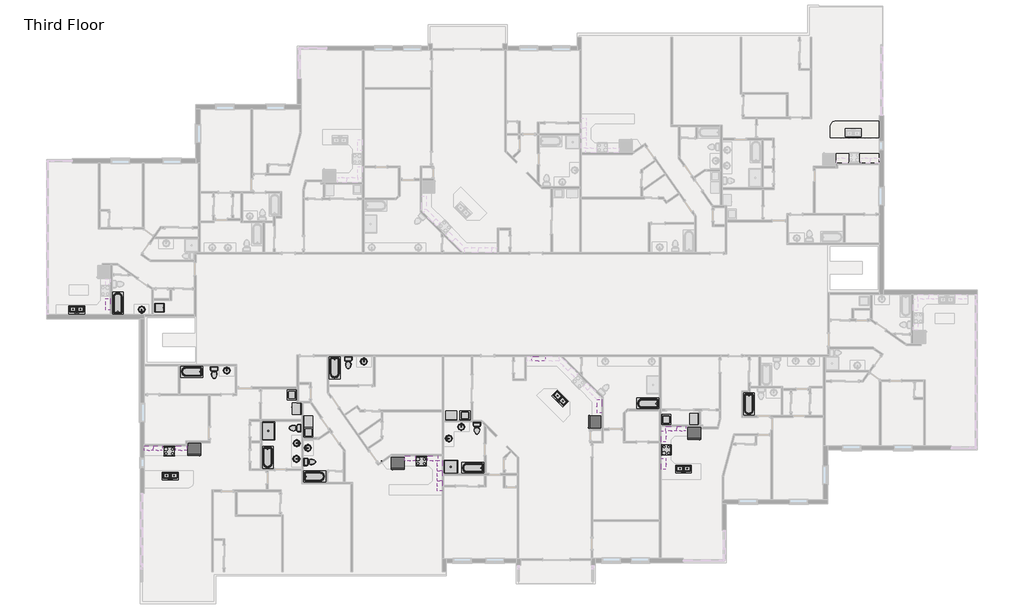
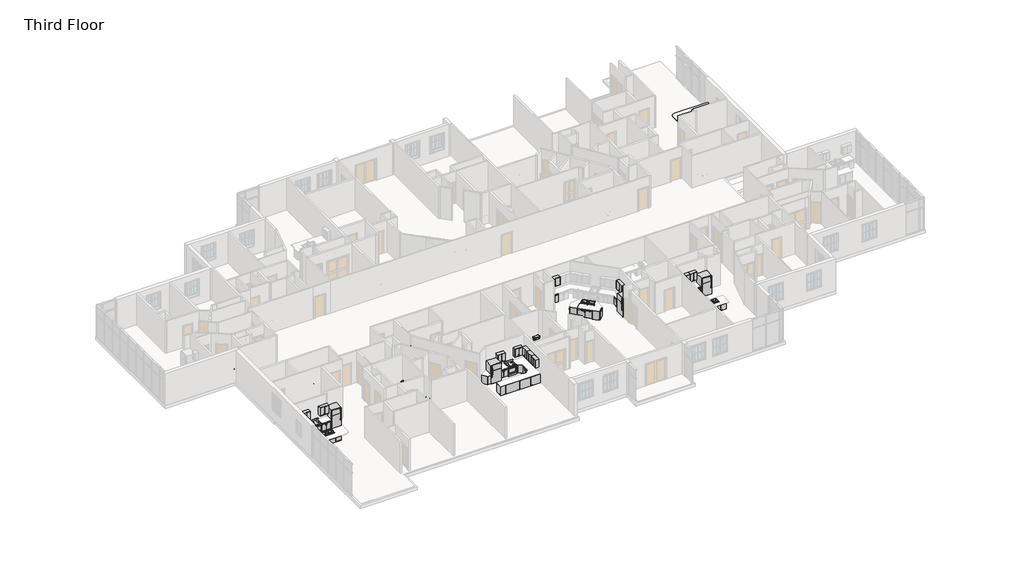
# One storey, part 14 of 17: 63 furniture elements, 27 flow terminals, 16 proxies, 2 slabs.
"""IFC4 building model written with IfcOpenShell, lengths in millimetres."""

from ifc_helpers import new_model, si_unit, point, frame, frame_2d, origin, place, context, project, spatial, polyline, circle_curve, trimmed, segment, composite_curve, outline, extrude, transform, mapped, element, save
from components import proxy_6b4a07a9, proxy_fbb4c072, proxy_93150df1, proxy_9109806d, proxy_718fa39f, proxy_f3e01b1d, flow_terminal_54cced83, flow_terminal_5dba0d75, flow_terminal_a53be723, flow_terminal_d49f872f, toilet_domestic_3d_toilet_domestic_3d_f7549cf7, toilet_domestic_3d_toilet_domestic_3d_183bbd19, tub_rectangular_3d_tub_rectangular_3d_72a4d900, tub_rectangular_3d_tub_rectangular_3d_cbc2c449, furniture_0fc2bd2a, furniture_337523c0, furniture_6e8794dd, furniture_07bc9410, furniture_6ace90bf, furniture_b282fead, furniture_6a014568, furniture_338da5bd, furniture_b74d3f52, furniture_7de88fd5, furniture_695a55eb, furniture_b6fbc004, furniture_b4094f2d, furniture_07c0da44, furniture_bfd559e3, base_cabinet_filler_base_cabinet_filler_dff9ed13, base_cabinet_filler_base_cabinet_filler_01d9e414, base_cabinet_filler_base_cabinet_filler_890d7b95, base_cabinet_filler_base_cabinet_filler_ec835e29, base_cabinet_filler_base_cabinet_filler_83579e99, base_cabinet_filler_base_cabinet_filler_783ad0b1, base_cabinet_filler_base_cabinet_filler_ca2a3ea1, furniture_de2c603d, furniture_a8c34398, furniture_09d05a5b, furniture_b1f16c95, furniture_c6a3367d, furniture_9117db5d, furniture_b34976c1

model = new_model("IFC4")

# Units and contexts
model_context = context("Model", 3, world=origin())
ifc_project = project(units=[si_unit("LENGTHUNIT", "METRE", prefix="MILLI")], contexts=[model_context])

# Site, building, storey
site = spatial("IfcSite", under=ifc_project)
building = spatial("IfcBuilding", under=site)
storey = spatial("IfcBuildingStorey", under=building, Name="Third Floor", Elevation=6096.0)

# Proxies
placement = place(None, origin())
proxy_shape = proxy_6b4a07a9(model_context)
element("IfcBuildingElementProxy", 1, Name="Dryer : 30\" x 25\" x 35\"", ObjectType="Dryer : 30\" x 25\" x 35\"", at=placement, inside=storey, context=model_context, shape_type="MappedRepresentation", body=[
    mapped(proxy_shape, transform((44173.5487851, -8537.825475, 6096.0), x_axis=(0.0, -1.0, 0.0), y_axis=(1.0, 0.0, 0.0), z_axis=(0.0, 0.0, 1.0))),
])
element("IfcBuildingElementProxy", 2, Name="Dryer : 30\" x 25\" x 35\"", ObjectType="Dryer : 30\" x 25\" x 35\"", at=placement, inside=storey, context=model_context, shape_type="MappedRepresentation", body=[
    mapped(proxy_shape, transform((28406.7740425, -8419.0812648, 6096.0), x_axis=(-1.0, 0.0, 0.0), y_axis=(0.0, -1.0, 0.0), z_axis=(0.0, 0.0, 1.0))),
])
element("IfcBuildingElementProxy", 3, Name="Dryer : 30\" x 25\" x 35\"", ObjectType="Dryer : 30\" x 25\" x 35\"", at=placement, inside=storey, context=model_context, shape_type="MappedRepresentation", body=[
    mapped(proxy_shape, transform((18584.1801376, -9524.4003876, 6096.0), x_axis=(0.0, 1.0, 0.0), y_axis=(-1.0, 0.0, 0.0), z_axis=(0.0, 0.0, 1.0))),
])
element("IfcBuildingElementProxy", 4, Name="Dryer : 30\" x 25\" x 35\"", ObjectType="Dryer : 30\" x 25\" x 35\"", at=placement, inside=storey, context=model_context, shape_type="MappedRepresentation", body=[
    mapped(proxy_shape, transform((17205.55813, -7837.3845163, 6096.0), x_axis=(0.0, -1.0, 0.0), y_axis=(1.0, 0.0, 0.0), z_axis=(0.0, 0.0, 1.0))),
])
proxy_2_shape = proxy_fbb4c072(model_context)
element("IfcBuildingElementProxy", 5, Name="Range : 30\" x 26\"", ObjectType="Range : 30\" x 26\"", at=placement, inside=storey, context=model_context, shape_type="MappedRepresentation", body=[
    mapped(proxy_2_shape, transform((8484.0058728, -11454.5493344, 6096.0), x_axis=(1.0, 0.0, 0.0), y_axis=(0.0, 1.0, 0.0), z_axis=(0.0, 0.0, 1.0))),
])
element("IfcBuildingElementProxy", 6, Name="Range : 30\" x 26\"", ObjectType="Range : 30\" x 26\"", at=placement, inside=storey, context=model_context, shape_type="MappedRepresentation", body=[
    mapped(proxy_2_shape, transform((25568.0760465, -12129.3236347, 6096.0), x_axis=(1.0, 0.0, 0.0), y_axis=(0.0, 1.0, 0.0), z_axis=(0.0, 0.0, 1.0))),
])
element("IfcBuildingElementProxy", 7, Name="Range : 30\" x 26\"", ObjectType="Range : 30\" x 26\"", at=placement, inside=storey, context=model_context, shape_type="MappedRepresentation", body=[
    mapped(proxy_2_shape, transform((42884.6470292, -11433.5876998, 6096.0), x_axis=(0.0, 1.0, 0.0), y_axis=(-1.0, 0.0, 0.0), z_axis=(0.0, 0.0, 1.0))),
])
proxy_3_shape = proxy_93150df1(model_context)
element("IfcBuildingElementProxy", 8, Name="Refrigerator : 35\" x 32\" LH", ObjectType="Refrigerator : 35\" x 32\" LH", at=placement, inside=storey, context=model_context, shape_type="MappedRepresentation", body=[
    mapped(proxy_3_shape, transform((24373.0696169, -11939.5714882, 6096.0), x_axis=(1.0, 0.0, 0.0), y_axis=(0.0, 1.0, 0.0), z_axis=(0.0, 0.0, 1.0))),
])
proxy_4_shape = proxy_9109806d(model_context)
element("IfcBuildingElementProxy", 9, Name="Refrigerator : 35\" x 32\" RH", ObjectType="Refrigerator : 35\" x 32\" RH", at=placement, inside=storey, context=model_context, shape_type="MappedRepresentation", body=[
    mapped(proxy_4_shape, transform((10565.2183728, -10998.1775997, 6096.0), x_axis=(1.0, 0.0, 0.0), y_axis=(0.0, 1.0, 0.0), z_axis=(0.0, 0.0, 1.0))),
])
element("IfcBuildingElementProxy", 10, Name="Refrigerator : 35\" x 32\" RH", ObjectType="Refrigerator : 35\" x 32\" RH", at=placement, inside=storey, context=model_context, shape_type="MappedRepresentation", body=[
    mapped(proxy_4_shape, transform((37739.4505062, -9160.9400492, 6096.0), x_axis=(-0.0020172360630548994, -0.9999979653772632, 0.0), y_axis=(0.9999979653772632, -0.0020172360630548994, 0.0), z_axis=(0.0, 0.0, 1.0))),
])
element("IfcBuildingElementProxy", 11, Name="Refrigerator : 35\" x 32\" RH", ObjectType="Refrigerator : 35\" x 32\" RH", at=placement, inside=storey, context=model_context, shape_type="MappedRepresentation", body=[
    mapped(proxy_4_shape, transform((44469.7001082, -9909.0410777, 6096.0), x_axis=(1.0, 0.0, 0.0), y_axis=(0.0, 1.0, 0.0), z_axis=(0.0, 0.0, 1.0))),
])
proxy_5_shape = proxy_718fa39f(model_context)
element("IfcBuildingElementProxy", 12, Name="Washer : 27\" x 25\" x 35\"", ObjectType="Washer : 27\" x 25\" x 35\"", at=placement, inside=storey, context=model_context, shape_type="MappedRepresentation", body=[
    mapped(proxy_5_shape, transform((42820.896594, -9415.6051683, 6096.0), x_axis=(0.0, 1.0, 0.0), y_axis=(-1.0, 0.0, 0.0), z_axis=(0.0, 0.0, 1.0))),
])
element("IfcBuildingElementProxy", 13, Name="Washer : 27\" x 25\" x 35\"", ObjectType="Washer : 27\" x 25\" x 35\"", at=placement, inside=storey, context=model_context, shape_type="MappedRepresentation", body=[
    mapped(proxy_5_shape, transform((29345.0797218, -8454.5927038, 6096.0), x_axis=(-1.0, 0.0, 0.0), y_axis=(0.0, -1.0, 0.0), z_axis=(0.0, 0.0, 1.0))),
])
element("IfcBuildingElementProxy", 14, Name="Washer : 27\" x 25\" x 35\"", ObjectType="Washer : 27\" x 25\" x 35\"", at=placement, inside=storey, context=model_context, shape_type="MappedRepresentation", body=[
    mapped(proxy_5_shape, transform((16924.7421343, -6896.1954628, 6096.0), x_axis=(0.0, -1.0, 0.0), y_axis=(1.0, 0.0, 0.0), z_axis=(0.0, 0.0, 1.0))),
])
element("IfcBuildingElementProxy", 15, Name="Washer : 27\" x 25\" x 35\"", ObjectType="Washer : 27\" x 25\" x 35\"", at=placement, inside=storey, context=model_context, shape_type="MappedRepresentation", body=[
    mapped(proxy_5_shape, transform((18548.6686985, -10291.5635078, 6096.0), x_axis=(0.0, 1.0, 0.0), y_axis=(-1.0, 0.0, 0.0), z_axis=(0.0, 0.0, 1.0))),
])
proxy_6_shape = proxy_f3e01b1d(model_context)
element("IfcBuildingElementProxy", 16, Name="Washer_Dryer_Combo : 24\"", ObjectType="Washer_Dryer_Combo : 24\"", at=placement, inside=storey, context=model_context, shape_type="MappedRepresentation", body=[
    mapped(proxy_6_shape, transform((7781.763642, -1399.896226, 6096.0), x_axis=(0.0, 1.0, 0.0), y_axis=(-1.0, 0.0, 0.0), z_axis=(0.0, 0.0, 1.0))),
])

# Flow terminals
flow_terminal_shape = flow_terminal_54cced83(model_context)
element("IfcFlowTerminal", 17, ObjectType="Shower Base-3D : 36\" x 36\"", at=placement, inside=storey, context=model_context, shape_type="MappedRepresentation", body=[
    mapped(flow_terminal_shape, transform((27964.2865862, -12199.1736347, 6096.0), x_axis=(-1.0, 0.0, 0.0), y_axis=(0.0, -1.0, 0.0), z_axis=(0.0, 0.0, 1.0))),
])
flow_terminal_2_shape = flow_terminal_5dba0d75(model_context)
element("IfcFlowTerminal", 18, ObjectType="Shower Base-3D : 48\" x 34\"", at=placement, inside=storey, context=model_context, shape_type="MappedRepresentation", body=[
    mapped(flow_terminal_2_shape, transform((15583.4691338, -9765.9826248, 6096.0), x_axis=(0.0, -1.0, 0.0), y_axis=(1.0, 0.0, 0.0), z_axis=(0.0, 0.0, 1.0))),
])
flow_terminal_3_shape = flow_terminal_a53be723(model_context)
element("IfcFlowTerminal", 19, ObjectType="Sink Kitchen-Double : 42\" x 21\"", at=placement, inside=storey, context=model_context, shape_type="MappedRepresentation", body=[
    mapped(flow_terminal_3_shape, transform((2610.3896329, -1539.4234679, 6096.0), x_axis=(-1.0, 0.0, 0.0), y_axis=(0.0, -1.0, 0.0), z_axis=(0.0, 0.0, 1.0))),
])
element("IfcFlowTerminal", 20, ObjectType="Sink Kitchen-Double : 42\" x 21\"", at=placement, inside=storey, context=model_context, shape_type="MappedRepresentation", body=[
    mapped(flow_terminal_3_shape, transform((8952.0802897, -12819.6612346, 6096.0), x_axis=(-1.0, 0.0, 0.0), y_axis=(0.0, -1.0, 0.0), z_axis=(0.0, 0.0, 1.0))),
])
element("IfcFlowTerminal", 21, ObjectType="Sink Kitchen-Double : 42\" x 21\"", at=placement, inside=storey, context=model_context, shape_type="MappedRepresentation", body=[
    mapped(flow_terminal_3_shape, transform((35369.4238071, -7586.7342025, 6096.0), x_axis=(-0.7071067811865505, 0.7071067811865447, 0.0), y_axis=(-0.7071067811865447, -0.7071067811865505, 0.0), z_axis=(0.0, 0.0, 1.0))),
])
element("IfcFlowTerminal", 22, ObjectType="Sink Kitchen-Double : 42\" x 21\"", at=placement, inside=storey, context=model_context, shape_type="MappedRepresentation", body=[
    mapped(flow_terminal_3_shape, transform((43757.5862697, -12345.6422987, 6096.0), x_axis=(-1.0, 0.0, 0.0), y_axis=(0.0, -1.0, 0.0), z_axis=(0.0, 0.0, 1.0))),
])
flow_terminal_4_shape = flow_terminal_d49f872f(model_context)
element("IfcFlowTerminal", 23, ObjectType="Sink Vanity-Round : 19\" x 19\"", at=placement, inside=storey, context=model_context, shape_type="MappedRepresentation", body=[
    mapped(flow_terminal_4_shape, transform((7095.9779114, -1446.5547276, 6096.0), x_axis=(-1.0, 0.0, 0.0), y_axis=(0.0, -1.0, 0.0), z_axis=(0.0, 0.0, 1.0))),
])
element("IfcFlowTerminal", 24, ObjectType="Sink Vanity-Round : 19\" x 19\"", at=placement, inside=storey, context=model_context, shape_type="MappedRepresentation", body=[
    mapped(flow_terminal_4_shape, transform((12671.2282401, -5751.7512482, 6096.0), x_axis=(1.0, 0.0, 0.0), y_axis=(0.0, 1.0, 0.0), z_axis=(0.0, 0.0, 1.0))),
])
element("IfcFlowTerminal", 25, ObjectType="Sink Vanity-Round : 19\" x 19\"", at=placement, inside=storey, context=model_context, shape_type="MappedRepresentation", body=[
    mapped(flow_terminal_4_shape, transform((17420.7936513, -10494.2975939, 6096.0), x_axis=(0.0, -1.0, 0.0), y_axis=(1.0, 0.0, 0.0), z_axis=(0.0, 0.0, 1.0))),
])
element("IfcFlowTerminal", 26, ObjectType="Sink Vanity-Round : 19\" x 19\"", at=placement, inside=storey, context=model_context, shape_type="MappedRepresentation", body=[
    mapped(flow_terminal_4_shape, transform((17409.016646, -11561.0975939, 6096.0), x_axis=(0.0, -1.0, 0.0), y_axis=(1.0, 0.0, 0.0), z_axis=(0.0, 0.0, 1.0))),
])
element("IfcFlowTerminal", 27, ObjectType="Sink Vanity-Round : 19\" x 19\"", at=placement, inside=storey, context=model_context, shape_type="MappedRepresentation", body=[
    mapped(flow_terminal_4_shape, transform((21972.1515274, -5140.3059377, 6096.0), x_axis=(1.0, 0.0, 0.0), y_axis=(0.0, 1.0, 0.0), z_axis=(0.0, 0.0, 1.0))),
])
element("IfcFlowTerminal", 28, ObjectType="Sink Vanity-Round : 19\" x 19\"", at=placement, inside=storey, context=model_context, shape_type="MappedRepresentation", body=[
    mapped(flow_terminal_4_shape, transform((27911.2708925, -10375.2194838, 6096.0), x_axis=(0.001247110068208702, 0.9999992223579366, 0.0), y_axis=(-0.9999992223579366, 0.001247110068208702, 0.0), z_axis=(0.0, 0.0, 1.0))),
])
element("IfcFlowTerminal", 29, ObjectType="Sink Vanity-Round : 19\" x 19\"", at=placement, inside=storey, context=model_context, shape_type="MappedRepresentation", body=[
    mapped(flow_terminal_4_shape, transform((28570.2652609, -9561.5358358, 6096.0), x_axis=(0.9999968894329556, -0.0024942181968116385, 0.0), y_axis=(0.0024942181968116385, 0.9999968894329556, 0.0), z_axis=(0.0, 0.0, 1.0))),
])
element("IfcFlowTerminal", 30, ObjectType="Sink Vanity-Round : 19\" x 19\"", at=placement, inside=storey, context=model_context, shape_type="MappedRepresentation", body=[
    mapped(flow_terminal_4_shape, transform((18352.0332752, -11016.4921873, 6096.0), x_axis=(0.0, 1.0, 0.0), y_axis=(-1.0, 0.0, 0.0), z_axis=(0.0, 0.0, 1.0))),
])
toilet_domestic_3d_toilet_domestic_3d_shape = toilet_domestic_3d_toilet_domestic_3d_f7549cf7(model_context)
toilet_domestic_3d_toilet_domestic_3d_2_shape = toilet_domestic_3d_toilet_domestic_3d_183bbd19(model_context)
element("IfcFlowTerminal", 31, ObjectType="Toilet-Domestic-3D : Toilet-Domestic-3D", at=placement, inside=storey, context=model_context, shape_type="MappedRepresentation", body=[
    mapped(toilet_domestic_3d_toilet_domestic_3d_shape, transform((11916.3561509, -5905.1826248, 6096.0), x_axis=(1.0, 0.0, 0.0), y_axis=(0.0, 1.0, 0.0), z_axis=(0.0, 0.0, 1.0))),
    mapped(toilet_domestic_3d_toilet_domestic_3d_2_shape, transform((11916.3561509, -5905.1826248, 6096.0), x_axis=(1.0, 0.0, 0.0), y_axis=(0.0, 1.0, 0.0), z_axis=(0.0, 0.0, 1.0))),
])
element("IfcFlowTerminal", 32, ObjectType="Toilet-Domestic-3D : Toilet-Domestic-3D", at=placement, inside=storey, context=model_context, shape_type="MappedRepresentation", body=[
    mapped(toilet_domestic_3d_toilet_domestic_3d_shape, transform((17301.7543863, -9562.7826248, 6096.0), x_axis=(0.0, -1.0, 0.0), y_axis=(1.0, 0.0, 0.0), z_axis=(0.0, 0.0, 1.0))),
    mapped(toilet_domestic_3d_toilet_domestic_3d_2_shape, transform((17301.7543863, -9562.7826248, 6096.0), x_axis=(0.0, -1.0, 0.0), y_axis=(1.0, 0.0, 0.0), z_axis=(0.0, 0.0, 1.0))),
])
element("IfcFlowTerminal", 33, ObjectType="Toilet-Domestic-3D : Toilet-Domestic-3D", at=placement, inside=storey, context=model_context, shape_type="MappedRepresentation", body=[
    mapped(toilet_domestic_3d_toilet_domestic_3d_shape, transform((18495.5543863, -11861.2719726, 6096.0), x_axis=(0.0, 1.0, 0.0), y_axis=(-1.0, 0.0, 0.0), z_axis=(0.0, 0.0, 1.0))),
    mapped(toilet_domestic_3d_toilet_domestic_3d_2_shape, transform((18495.5543863, -11861.2719726, 6096.0), x_axis=(0.0, 1.0, 0.0), y_axis=(-1.0, 0.0, 0.0), z_axis=(0.0, 0.0, 1.0))),
])
element("IfcFlowTerminal", 34, ObjectType="Toilet-Domestic-3D : Toilet-Domestic-3D", at=placement, inside=storey, context=model_context, shape_type="MappedRepresentation", body=[
    mapped(toilet_domestic_3d_toilet_domestic_3d_shape, transform((21010.1543863, -5232.0826248, 6096.0), x_axis=(1.0, 0.0, 0.0), y_axis=(0.0, 1.0, 0.0), z_axis=(0.0, 0.0, 1.0))),
    mapped(toilet_domestic_3d_toilet_domestic_3d_2_shape, transform((21010.1543863, -5232.0826248, 6096.0), x_axis=(1.0, 0.0, 0.0), y_axis=(0.0, 1.0, 0.0), z_axis=(0.0, 0.0, 1.0))),
])
element("IfcFlowTerminal", 35, ObjectType="Toilet-Domestic-3D : Toilet-Domestic-3D", at=placement, inside=storey, context=model_context, shape_type="MappedRepresentation", body=[
    mapped(toilet_domestic_3d_toilet_domestic_3d_shape, transform((29733.3816535, -9682.6542097, 6096.0), x_axis=(1.0, 0.0, 0.0), y_axis=(0.0, 1.0, 0.0), z_axis=(0.0, 0.0, 1.0))),
    mapped(toilet_domestic_3d_toilet_domestic_3d_2_shape, transform((29733.3816535, -9682.6542097, 6096.0), x_axis=(1.0, 0.0, 0.0), y_axis=(0.0, 1.0, 0.0), z_axis=(0.0, 0.0, 1.0))),
])
tub_rectangular_3d_tub_rectangular_3d_shape = tub_rectangular_3d_tub_rectangular_3d_72a4d900(model_context)
element("IfcFlowTerminal", 36, ObjectType="Tub-Rectangular-3D : Tub-Rectangular-3D", at=placement, inside=storey, context=model_context, shape_type="MappedRepresentation", body=[
    mapped(tub_rectangular_3d_tub_rectangular_3d_shape, transform((47733.9460269, -8284.6757706, 6096.0), x_axis=(0.0, -1.0, 0.0), y_axis=(1.0, 0.0, 0.0), z_axis=(0.0, 0.0, 1.0))),
])
element("IfcFlowTerminal", 37, ObjectType="Tub-Rectangular-3D : Tub-Rectangular-3D", at=placement, inside=storey, context=model_context, shape_type="MappedRepresentation", body=[
    mapped(tub_rectangular_3d_tub_rectangular_3d_shape, transform((19641.0094272, -5812.794765, 6096.0), x_axis=(0.0, -1.0, 0.0), y_axis=(1.0, 0.0, 0.0), z_axis=(0.0, 0.0, 1.0))),
])
element("IfcFlowTerminal", 38, ObjectType="Tub-Rectangular-3D : Tub-Rectangular-3D", at=placement, inside=storey, context=model_context, shape_type="MappedRepresentation", body=[
    mapped(tub_rectangular_3d_tub_rectangular_3d_shape, transform((19051.8674743, -13293.3204597, 6096.0), x_axis=(1.0, 0.0, 0.0), y_axis=(0.0, 1.0, 0.0), z_axis=(0.0, 0.0, 1.0))),
])
element("IfcFlowTerminal", 39, ObjectType="Tub-Rectangular-3D : Tub-Rectangular-3D", at=placement, inside=storey, context=model_context, shape_type="MappedRepresentation", body=[
    mapped(tub_rectangular_3d_tub_rectangular_3d_shape, transform((15100.67709, -11904.7523031, 6096.0), x_axis=(0.0, -1.0, 0.0), y_axis=(1.0, 0.0, 0.0), z_axis=(0.0, 0.0, 1.0))),
])
element("IfcFlowTerminal", 40, ObjectType="Tub-Rectangular-3D : Tub-Rectangular-3D", at=placement, inside=storey, context=model_context, shape_type="MappedRepresentation", body=[
    mapped(tub_rectangular_3d_tub_rectangular_3d_shape, transform((10041.086734, -5294.5871067, 6096.0), x_axis=(-1.0, 0.0, 0.0), y_axis=(0.0, -1.0, 0.0), z_axis=(0.0, 0.0, 1.0))),
])
tub_rectangular_3d_tub_rectangular_3d_2_shape = tub_rectangular_3d_tub_rectangular_3d_cbc2c449(model_context)
element("IfcFlowTerminal", 41, ObjectType="Tub-Rectangular-3D : Tub-Rectangular-3D", at=placement, inside=storey, context=model_context, shape_type="MappedRepresentation", body=[
    mapped(tub_rectangular_3d_tub_rectangular_3d_2_shape, transform((4937.8503923, -742.3159003, 6096.0), x_axis=(0.0, 1.0, 0.0), y_axis=(-1.0, 0.0, 0.0), z_axis=(0.0, 0.0, 1.0))),
])
element("IfcFlowTerminal", 42, ObjectType="Tub-Rectangular-3D : Tub-Rectangular-3D", at=placement, inside=storey, context=model_context, shape_type="MappedRepresentation", body=[
    mapped(tub_rectangular_3d_tub_rectangular_3d_2_shape, transform((29107.1010669, -12707.1736347, 6096.0), x_axis=(-1.0, 0.0, 0.0), y_axis=(0.0, -1.0, 0.0), z_axis=(0.0, 0.0, 1.0))),
])
element("IfcFlowTerminal", 43, ObjectType="Tub-Rectangular-3D : Tub-Rectangular-3D", at=placement, inside=storey, context=model_context, shape_type="MappedRepresentation", body=[
    mapped(tub_rectangular_3d_tub_rectangular_3d_2_shape, transform((40980.2940605, -8335.220689, 6096.0), x_axis=(-1.0, 0.0, 0.0), y_axis=(0.0, -1.0, 0.0), z_axis=(0.0, 0.0, 1.0))),
])

# Furniture
furniture_shape = furniture_0fc2bd2a(model_context)
element("IfcFurniture", 44, ObjectType="Base Cabinet-Single Door & Drawer : 15\"'", at=placement, inside=storey, context=model_context, shape_type="MappedRepresentation", body=[
    mapped(furniture_shape, transform((7393.028754, -13101.4066357, 6096.0), x_axis=(-1.0, 0.0, 0.0), y_axis=(0.0, -1.0, 0.0), z_axis=(0.0, 0.0, 1.0))),
])
furniture_2_shape = furniture_337523c0(model_context)
element("IfcFurniture", 45, ObjectType="Base Cabinet-Single Door & Drawer : 12\"", at=placement, inside=storey, context=model_context, shape_type="MappedRepresentation", body=[
    mapped(furniture_2_shape, transform((42224.2470292, -10500.4499949, 6096.0), x_axis=(0.0, -1.0, 0.0), y_axis=(1.0, 0.0, 0.0), z_axis=(0.0, 0.0, 1.0))),
])
furniture_3_shape = furniture_6e8794dd(model_context)
element("IfcFurniture", 46, ObjectType="Base Cabinet-Single Door & Drawer : 12\"", at=placement, inside=storey, context=model_context, shape_type="MappedRepresentation", body=[
    mapped(furniture_3_shape, transform((4880.7003923, -765.2085211, 6096.0), x_axis=(0.0, -1.0, 0.0), y_axis=(1.0, 0.0, 0.0), z_axis=(0.0, 0.0, 1.0))),
])
element("IfcFurniture", 47, ObjectType="Base Cabinet-Single Door & Drawer : 12\"", at=placement, inside=storey, context=model_context, shape_type="MappedRepresentation", body=[
    mapped(furniture_3_shape, transform((42224.2470292, -11604.7254047, 6096.0), x_axis=(0.0, 1.0, 0.0), y_axis=(-1.0, 0.0, 0.0), z_axis=(0.0, 0.0, 1.0))),
])
furniture_4_shape = furniture_07bc9410(model_context)
element("IfcFurniture", 48, ObjectType="Base Cabinet-Single Door & Drawer : 18\"", at=placement, inside=storey, context=model_context, shape_type="MappedRepresentation", body=[
    mapped(furniture_4_shape, transform((7423.2435778, -10772.1368662, 6096.0), x_axis=(-1.0, 0.0, 0.0), y_axis=(0.0, -1.0, 0.0), z_axis=(0.0, 0.0, 1.0))),
])
furniture_5_shape = furniture_6ace90bf(model_context)
element("IfcFurniture", 49, ObjectType="Base Cabinet-Single Door & Drawer : 18\"", at=placement, inside=storey, context=model_context, shape_type="MappedRepresentation", body=[
    mapped(furniture_5_shape, transform((9793.328754, -13101.4066357, 6096.0), x_axis=(-1.0, 0.0, 0.0), y_axis=(0.0, -1.0, 0.0), z_axis=(0.0, 0.0, 1.0))),
])
element("IfcFurniture", 50, ObjectType="Base Cabinet-Single Door & Drawer : 18\"", at=placement, inside=storey, context=model_context, shape_type="MappedRepresentation", body=[
    mapped(furniture_5_shape, transform((24038.1263728, -14082.7941728, 6096.0), x_axis=(-1.0, 0.0, 0.0), y_axis=(0.0, -1.0, 0.0), z_axis=(0.0, 0.0, 1.0))),
])
furniture_6_shape = furniture_b282fead(model_context)
element("IfcFurniture", 51, ObjectType="Base Cabinet-Single Door & Drawer : 21\"", at=placement, inside=storey, context=model_context, shape_type="MappedRepresentation", body=[
    mapped(furniture_6_shape, transform((44636.9347341, -12652.7876998, 6096.0), x_axis=(-1.0, 0.0, 0.0), y_axis=(0.0, -1.0, 0.0), z_axis=(0.0, 0.0, 1.0))),
])
furniture_7_shape = furniture_6a014568(model_context)
element("IfcFurniture", 52, ObjectType="Base Cabinet-Single Door & Drawer : 24\"", at=placement, inside=storey, context=model_context, shape_type="MappedRepresentation", body=[
    mapped(furniture_7_shape, transform((35343.4218314, -8452.6528289, 6096.0), x_axis=(0.7071067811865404, 0.7071067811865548, 0.0), y_axis=(-0.7071067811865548, 0.7071067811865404, 0.0), z_axis=(0.0, 0.0, 1.0))),
])
element("IfcFurniture", 53, ObjectType="Base Cabinet-Single Door & Drawer : 24\"", at=placement, inside=storey, context=model_context, shape_type="MappedRepresentation", body=[
    mapped(furniture_7_shape, transform((34507.8163602, -7564.0491249, 6096.0), x_axis=(-0.7071067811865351, -0.70710678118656, 0.0), y_axis=(0.70710678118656, -0.7071067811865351, 0.0), z_axis=(0.0, 0.0, 1.0))),
])
furniture_8_shape = furniture_338da5bd(model_context)
element("IfcFurniture", 54, ObjectType="Base Cabinet-Double Door & 2 Drawer : 30\"", at=placement, inside=storey, context=model_context, shape_type="MappedRepresentation", body=[
    mapped(furniture_8_shape, transform((7964.528754, -13101.4066357, 6096.0), x_axis=(-1.0, 0.0, 0.0), y_axis=(0.0, -1.0, 0.0), z_axis=(0.0, 0.0, 1.0))),
])
element("IfcFurniture", 55, ObjectType="Base Cabinet-Double Door & 2 Drawer : 30\"", at=placement, inside=storey, context=model_context, shape_type="MappedRepresentation", body=[
    mapped(furniture_8_shape, transform((27373.7365862, -12755.9564679, 6096.0), x_axis=(0.0, -1.0, 0.0), y_axis=(1.0, 0.0, 0.0), z_axis=(0.0, 0.0, 1.0))),
])
element("IfcFurniture", 56, ObjectType="Base Cabinet-Double Door & 2 Drawer : 30\"", at=placement, inside=storey, context=model_context, shape_type="MappedRepresentation", body=[
    mapped(furniture_8_shape, transform((25173.481912, -11468.9236347, 6096.0), x_axis=(1.0, 0.0, 0.0), y_axis=(0.0, 1.0, 0.0), z_axis=(0.0, 0.0, 1.0))),
])
furniture_9_shape = furniture_b74d3f52(model_context)
element("IfcFurniture", 57, ObjectType="Base Cabinet-Double Door & 2 Drawer : 33\"", at=placement, inside=storey, context=model_context, shape_type="MappedRepresentation", body=[
    mapped(furniture_9_shape, transform((8083.6435778, -10772.1368662, 6096.0), x_axis=(-1.0, 0.0, 0.0), y_axis=(0.0, -1.0, 0.0), z_axis=(0.0, 0.0, 1.0))),
])
furniture_10_shape = furniture_7de88fd5(model_context)
element("IfcFurniture", 58, ObjectType="Base Cabinet-Double Door & 2 Drawer : 33\"", at=placement, inside=storey, context=model_context, shape_type="MappedRepresentation", body=[
    mapped(furniture_10_shape, transform((9646.3681679, -10772.1368662, 6096.0), x_axis=(1.0, 0.0, 0.0), y_axis=(0.0, 1.0, 0.0), z_axis=(0.0, 0.0, 1.0))),
])
element("IfcFurniture", 59, ObjectType="Base Cabinet-Double Door & 2 Drawer : 33\"", at=placement, inside=storey, context=model_context, shape_type="MappedRepresentation", body=[
    mapped(furniture_10_shape, transform((43539.0093243, -9452.3876998, 6096.0), x_axis=(1.0, 0.0, 0.0), y_axis=(0.0, 1.0, 0.0), z_axis=(0.0, 0.0, 1.0))),
])
furniture_11_shape = furniture_695a55eb(model_context)
element("IfcFurniture", 60, ObjectType="Base Cabinet-Double Door & 2 Drawer : 36\"", at=placement, inside=storey, context=model_context, shape_type="MappedRepresentation", body=[
    mapped(furniture_11_shape, transform((1661.5626874, -1846.568869, 6096.0), x_axis=(1.0, 0.0, 0.0), y_axis=(0.0, 1.0, 0.0), z_axis=(0.0, 0.0, 1.0))),
])
element("IfcFurniture", 61, ObjectType="Base Cabinet-Double Door & 2 Drawer : 36\"", at=placement, inside=storey, context=model_context, shape_type="MappedRepresentation", body=[
    mapped(furniture_11_shape, transform((2575.9626874, -1846.568869, 6096.0), x_axis=(1.0, 0.0, 0.0), y_axis=(0.0, 1.0, 0.0), z_axis=(0.0, 0.0, 1.0))),
])
element("IfcFurniture", 62, ObjectType="Base Cabinet-Double Door & 2 Drawer : 36\"", at=placement, inside=storey, context=model_context, shape_type="MappedRepresentation", body=[
    mapped(furniture_11_shape, transform((3490.3626874, -1846.568869, 6096.0), x_axis=(1.0, 0.0, 0.0), y_axis=(0.0, 1.0, 0.0), z_axis=(0.0, 0.0, 1.0))),
])
furniture_12_shape = furniture_b6fbc004(model_context)
element("IfcFurniture", 63, ObjectType="Base Cabinet-Double Door & 2 Drawer : 36\"", at=placement, inside=storey, context=model_context, shape_type="MappedRepresentation", body=[
    mapped(furniture_12_shape, transform((33534.2589917, -4708.5417963, 6096.0), x_axis=(1.0, 0.0, 0.0), y_axis=(0.0, 1.0, 0.0), z_axis=(0.0, 0.0, 1.0))),
])
element("IfcFurniture", 64, ObjectType="Base Cabinet-Double Door & 2 Drawer : 36\"", at=placement, inside=storey, context=model_context, shape_type="MappedRepresentation", body=[
    mapped(furniture_12_shape, transform((38191.5400155, -8246.5337163, 6096.0), x_axis=(0.0, -1.0, 0.0), y_axis=(1.0, 0.0, 0.0), z_axis=(0.0, 0.0, 1.0))),
])
furniture_13_shape = furniture_b4094f2d(model_context)
element("IfcFurniture", 65, ObjectType="Base Cabinet-Double Door & 2 Drawer : 39\"", at=placement, inside=storey, context=model_context, shape_type="MappedRepresentation", body=[
    mapped(furniture_13_shape, transform((25982.7742911, -14082.7941728, 6096.0), x_axis=(-1.0, 0.0, 0.0), y_axis=(0.0, -1.0, 0.0), z_axis=(0.0, 0.0, 1.0))),
])
furniture_14_shape = furniture_07c0da44(model_context)
element("IfcFurniture", 66, ObjectType="Base Cabinet-Double Door & 2 Drawer : 48\"", at=placement, inside=storey, context=model_context, shape_type="MappedRepresentation", body=[
    mapped(furniture_14_shape, transform((8955.128754, -13101.4066357, 6096.0), x_axis=(-1.0, 0.0, 0.0), y_axis=(0.0, -1.0, 0.0), z_axis=(0.0, 0.0, 1.0))),
])
element("IfcFurniture", 67, ObjectType="Base Cabinet-Double Door & 2 Drawer : 48\"", at=placement, inside=storey, context=model_context, shape_type="MappedRepresentation", body=[
    mapped(furniture_14_shape, transform((24876.3263728, -14082.7941728, 6096.0), x_axis=(-1.0, 0.0, 0.0), y_axis=(0.0, -1.0, 0.0), z_axis=(0.0, 0.0, 1.0))),
])
element("IfcFurniture", 68, ObjectType="Base Cabinet-Double Door & 2 Drawer : 48\"", at=placement, inside=storey, context=model_context, shape_type="MappedRepresentation", body=[
    mapped(furniture_14_shape, transform((35154.3948009, -7806.0743882, 6096.0), x_axis=(-0.7071067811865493, 0.7071067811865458, 0.0), y_axis=(-0.7071067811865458, -0.7071067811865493, 0.0), z_axis=(0.0, 0.0, 1.0))),
])
element("IfcFurniture", 69, ObjectType="Base Cabinet-Double Door & 2 Drawer : 48\"", at=placement, inside=storey, context=model_context, shape_type="MappedRepresentation", body=[
    mapped(furniture_14_shape, transform((35127.8956845, -7779.5752718, 6096.0), x_axis=(0.7071067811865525, -0.7071067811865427, 0.0), y_axis=(0.7071067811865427, 0.7071067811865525, 0.0), z_axis=(0.0, 0.0, 1.0))),
])
element("IfcFurniture", 70, ObjectType="Base Cabinet-Double Door & 2 Drawer : 48\"", at=placement, inside=storey, context=model_context, shape_type="MappedRepresentation", body=[
    mapped(furniture_14_shape, transform((43760.6347341, -12652.7876998, 6096.0), x_axis=(-1.0, 0.0, 0.0), y_axis=(0.0, -1.0, 0.0), z_axis=(0.0, 0.0, 1.0))),
])
furniture_15_shape = furniture_bfd559e3(model_context)
element("IfcFurniture", 71, ObjectType="Base Cabinet-Corner Unit-Angled : 36\"", at=placement, inside=storey, context=model_context, shape_type="MappedRepresentation", body=[
    mapped(furniture_15_shape, transform((4880.7003923, -1319.8311641, 6096.0), x_axis=(0.0, -1.0, 0.0), y_axis=(1.0, 0.0, 0.0), z_axis=(0.0, 0.0, 1.0))),
])
element("IfcFurniture", 72, ObjectType="Base Cabinet-Corner Unit-Angled : 36\"", at=placement, inside=storey, context=model_context, shape_type="MappedRepresentation", body=[
    mapped(furniture_15_shape, transform((27373.7365862, -13556.0564679, 6096.0), x_axis=(0.0, -1.0, 0.0), y_axis=(1.0, 0.0, 0.0), z_axis=(0.0, 0.0, 1.0))),
])
element("IfcFurniture", 73, ObjectType="Base Cabinet-Corner Unit-Angled : 36\"", at=placement, inside=storey, context=model_context, shape_type="MappedRepresentation", body=[
    mapped(furniture_15_shape, transform((26846.9988812, -11468.9236347, 6096.0), x_axis=(1.0, 0.0, 0.0), y_axis=(0.0, 1.0, 0.0), z_axis=(0.0, 0.0, 1.0))),
])
element("IfcFurniture", 74, ObjectType="Base Cabinet-Corner Unit-Angled : 36\"", at=placement, inside=storey, context=model_context, shape_type="MappedRepresentation", body=[
    mapped(furniture_15_shape, transform((42224.2470292, -9979.1254047, 6096.0), x_axis=(0.0, 1.0, 0.0), y_axis=(-1.0, 0.0, 0.0), z_axis=(0.0, 0.0, 1.0))),
])
element("IfcFurniture", 75, ObjectType="Base Cabinet-Corner Unit-Angled : 36\"", at=placement, inside=storey, context=model_context, shape_type="MappedRepresentation", body=[
    mapped(furniture_15_shape, transform((42744.6347341, -12652.7876998, 6096.0), x_axis=(-1.0, 0.0, 0.0), y_axis=(0.0, -1.0, 0.0), z_axis=(0.0, 0.0, 1.0))),
])
base_cabinet_filler_base_cabinet_filler_shape = base_cabinet_filler_base_cabinet_filler_dff9ed13(model_context)
element("IfcFurniture", 76, ObjectType="Base Cabinet-Filler : Base Cabinet-Filler", at=placement, inside=storey, context=model_context, shape_type="MappedRepresentation", body=[
    mapped(base_cabinet_filler_base_cabinet_filler_shape, transform((7620.7181679, -10772.1368662, 6096.0), x_axis=(1.0, 0.0, 0.0), y_axis=(0.0, 1.0, 0.0), z_axis=(0.0, 0.0, 1.0))),
])
element("IfcFurniture", 77, ObjectType="Base Cabinet-Filler : Base Cabinet-Filler", at=placement, inside=storey, context=model_context, shape_type="MappedRepresentation", body=[
    mapped(base_cabinet_filler_base_cabinet_filler_shape, transform((27373.7365862, -13143.3064679, 6096.0), x_axis=(0.0, -1.0, 0.0), y_axis=(1.0, 0.0, 0.0), z_axis=(0.0, 0.0, 1.0))),
])
base_cabinet_filler_base_cabinet_filler_2_shape = base_cabinet_filler_base_cabinet_filler_01d9e414(model_context)
element("IfcFurniture", 78, ObjectType="Base Cabinet-Filler : Base Cabinet-Filler", at=placement, inside=storey, context=model_context, shape_type="MappedRepresentation", body=[
    mapped(base_cabinet_filler_base_cabinet_filler_2_shape, transform((10086.8994179, -10772.1368662, 6096.0), x_axis=(1.0, 0.0, 0.0), y_axis=(0.0, 1.0, 0.0), z_axis=(0.0, 0.0, 1.0))),
])
base_cabinet_filler_base_cabinet_filler_3_shape = base_cabinet_filler_base_cabinet_filler_890d7b95(model_context)
element("IfcFurniture", 79, ObjectType="Base Cabinet-Filler : Base Cabinet-Filler", at=placement, inside=storey, context=model_context, shape_type="MappedRepresentation", body=[
    mapped(base_cabinet_filler_base_cabinet_filler_3_shape, transform((26375.9686114, -11468.9236347, 6096.0), x_axis=(1.0, 0.0, 0.0), y_axis=(0.0, 1.0, 0.0), z_axis=(0.0, 0.0, 1.0))),
])
base_cabinet_filler_base_cabinet_filler_4_shape = base_cabinet_filler_base_cabinet_filler_ec835e29(model_context)
element("IfcFurniture", 80, ObjectType="Base Cabinet-Filler : Base Cabinet-Filler", at=placement, inside=storey, context=model_context, shape_type="MappedRepresentation", body=[
    mapped(base_cabinet_filler_base_cabinet_filler_4_shape, transform((27373.7365862, -12369.7711988, 6096.0), x_axis=(0.0, -1.0, 0.0), y_axis=(1.0, 0.0, 0.0), z_axis=(0.0, 0.0, 1.0))),
])
base_cabinet_filler_base_cabinet_filler_5_shape = base_cabinet_filler_base_cabinet_filler_83579e99(model_context)
element("IfcFurniture", 81, ObjectType="Base Cabinet-Filler : Base Cabinet-Filler", at=placement, inside=storey, context=model_context, shape_type="MappedRepresentation", body=[
    mapped(base_cabinet_filler_base_cabinet_filler_5_shape, transform((43985.4608638, -9452.3876998, 6096.0), x_axis=(1.0, 0.0, 0.0), y_axis=(0.0, 1.0, 0.0), z_axis=(0.0, 0.0, 1.0))),
])
base_cabinet_filler_base_cabinet_filler_6_shape = base_cabinet_filler_base_cabinet_filler_783ad0b1(model_context)
element("IfcFurniture", 82, ObjectType="Base Cabinet-Filler : Base Cabinet-Filler", at=placement, inside=storey, context=model_context, shape_type="MappedRepresentation", body=[
    mapped(base_cabinet_filler_base_cabinet_filler_6_shape, transform((23755.8937619, -11708.3436972, 6096.0), x_axis=(1.0, 0.0, 0.0), y_axis=(0.0, 1.0, 0.0), z_axis=(0.0, 0.0, 1.0))),
])
base_cabinet_filler_base_cabinet_filler_7_shape = base_cabinet_filler_base_cabinet_filler_ca2a3ea1(model_context)
element("IfcFurniture", 83, ObjectType="Base Cabinet-Filler : Base Cabinet-Filler", at=placement, inside=storey, context=model_context, shape_type="MappedRepresentation", body=[
    mapped(base_cabinet_filler_base_cabinet_filler_7_shape, transform((23926.7430816, -11693.9911948, 6096.0), x_axis=(0.5735764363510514, -0.8191520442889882, 0.0), y_axis=(0.8191520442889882, 0.5735764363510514, 0.0), z_axis=(0.0, 0.0, 1.0))),
])
furniture_16_shape = furniture_de2c603d(model_context)
element("IfcFurniture", 84, ObjectType="Upper Cabinet-Double Door-Wall : 24\"", at=placement, inside=storey, context=model_context, shape_type="MappedRepresentation", body=[
    mapped(furniture_16_shape, transform((7516.0292787, -10717.9493344, 6096.0), x_axis=(-1.0, 0.0, 0.0), y_axis=(0.0, -1.0, 0.0), z_axis=(0.0, 0.0, 1.0))),
])
element("IfcFurniture", 85, ObjectType="Upper Cabinet-Double Door-Wall : 24\"", at=placement, inside=storey, context=model_context, shape_type="MappedRepresentation", body=[
    mapped(furniture_16_shape, transform((8125.6292787, -10717.9493344, 6096.0), x_axis=(-1.0, 0.0, 0.0), y_axis=(0.0, -1.0, 0.0), z_axis=(0.0, 0.0, 1.0))),
])
element("IfcFurniture", 86, ObjectType="Upper Cabinet-Double Door-Wall : 24\"", at=placement, inside=storey, context=model_context, shape_type="MappedRepresentation", body=[
    mapped(furniture_16_shape, transform((43625.618192, -9395.2376998, 6096.0), x_axis=(-1.0, 0.0, 0.0), y_axis=(0.0, -1.0, 0.0), z_axis=(0.0, 0.0, 1.0))),
])
furniture_17_shape = furniture_a8c34398(model_context)
element("IfcFurniture", 87, ObjectType="Upper Cabinet-Double Door-Wall : 27\"", at=placement, inside=storey, context=model_context, shape_type="MappedRepresentation", body=[
    mapped(furniture_17_shape, transform((25225.457749, -11411.7736347, 6096.0), x_axis=(-1.0, 0.0, 0.0), y_axis=(0.0, -1.0, 0.0), z_axis=(0.0, 0.0, 1.0))),
])
element("IfcFurniture", 88, ObjectType="Upper Cabinet-Double Door-Wall : 27\"", at=placement, inside=storey, context=model_context, shape_type="MappedRepresentation", body=[
    mapped(furniture_17_shape, transform((26755.807749, -11411.7736347, 6096.0), x_axis=(-1.0, 0.0, 0.0), y_axis=(0.0, -1.0, 0.0), z_axis=(0.0, 0.0, 1.0))),
])
element("IfcFurniture", 89, ObjectType="Upper Cabinet-Double Door-Wall : 27\"", at=placement, inside=storey, context=model_context, shape_type="MappedRepresentation", body=[
    mapped(furniture_17_shape, transform((27430.8865862, -12146.3947975, 6096.0), x_axis=(0.0, 1.0, 0.0), y_axis=(-1.0, 0.0, 0.0), z_axis=(0.0, 0.0, 1.0))),
])
element("IfcFurniture", 90, ObjectType="Upper Cabinet-Double Door-Wall : 27\"", at=placement, inside=storey, context=model_context, shape_type="MappedRepresentation", body=[
    mapped(furniture_17_shape, transform((27430.8865862, -12832.1947975, 6096.0), x_axis=(0.0, 1.0, 0.0), y_axis=(-1.0, 0.0, 0.0), z_axis=(0.0, 0.0, 1.0))),
])
furniture_18_shape = furniture_09d05a5b(model_context)
element("IfcFurniture", 91, ObjectType="Upper Cabinet-Double Door-Wall : 27\"", at=placement, inside=storey, context=model_context, shape_type="MappedRepresentation", body=[
    mapped(furniture_18_shape, transform((27430.8865862, -13458.4524719, 6096.0), x_axis=(0.0, -1.0, 0.0), y_axis=(1.0, 0.0, 0.0), z_axis=(0.0, 0.0, 1.0))),
])
furniture_19_shape = furniture_b1f16c95(model_context)
element("IfcFurniture", 92, ObjectType="Upper Cabinet-Double Door-Wall : 30\"", at=placement, inside=storey, context=model_context, shape_type="MappedRepresentation", body=[
    mapped(furniture_19_shape, transform((4937.8503923, -1190.5400318, 6096.0), x_axis=(0.0, 1.0, 0.0), y_axis=(-1.0, 0.0, 0.0), z_axis=(0.0, 0.0, 1.0))),
])
element("IfcFurniture", 93, ObjectType="Upper Cabinet-Double Door-Wall : 30\"", at=placement, inside=storey, context=model_context, shape_type="MappedRepresentation", body=[
    mapped(furniture_19_shape, transform((9707.5770356, -10717.9493344, 6096.0), x_axis=(-1.0, 0.0, 0.0), y_axis=(0.0, -1.0, 0.0), z_axis=(0.0, 0.0, 1.0))),
])
element("IfcFurniture", 94, ObjectType="Upper Cabinet-Double Door-Wall : 30\"", at=placement, inside=storey, context=model_context, shape_type="MappedRepresentation", body=[
    mapped(furniture_19_shape, transform((42939.818192, -9395.2376998, 6096.0), x_axis=(-1.0, 0.0, 0.0), y_axis=(0.0, -1.0, 0.0), z_axis=(0.0, 0.0, 1.0))),
])
element("IfcFurniture", 95, ObjectType="Upper Cabinet-Double Door-Wall : 30\"", at=placement, inside=storey, context=model_context, shape_type="MappedRepresentation", body=[
    mapped(furniture_19_shape, transform((42167.0970292, -10108.416537, 6096.0), x_axis=(0.0, -1.0, 0.0), y_axis=(1.0, 0.0, 0.0), z_axis=(0.0, 0.0, 1.0))),
])
element("IfcFurniture", 96, ObjectType="Upper Cabinet-Double Door-Wall : 30\"", at=placement, inside=storey, context=model_context, shape_type="MappedRepresentation", body=[
    mapped(furniture_19_shape, transform((42167.0970292, -11960.618458, 6096.0), x_axis=(0.0, -1.0, 0.0), y_axis=(1.0, 0.0, 0.0), z_axis=(0.0, 0.0, 1.0))),
])
furniture_20_shape = furniture_c6a3367d(model_context)
element("IfcFurniture", 97, ObjectType="Upper Cabinet-Double Door-Wall : 36\"", at=placement, inside=storey, context=model_context, shape_type="MappedRepresentation", body=[
    mapped(furniture_20_shape, transform((38253.8005062, -8111.7005925, 6096.0), x_axis=(0.0, 1.0, 0.0), y_axis=(-1.0, 0.0, 0.0), z_axis=(0.0, 0.0, 1.0))),
])
element("IfcFurniture", 98, ObjectType="Upper Cabinet-Double Door-Wall : 36\"", at=placement, inside=storey, context=model_context, shape_type="MappedRepresentation", body=[
    mapped(furniture_20_shape, transform((33938.6340356, -4651.3917963, 6096.0), x_axis=(-1.0, 0.0, 0.0), y_axis=(0.0, -1.0, 0.0), z_axis=(0.0, 0.0, 1.0))),
])
furniture_21_shape = furniture_9117db5d(model_context)
element("IfcFurniture", 99, ObjectType="Vanity Cabinet-Double Door Sink Unit : 39\"", at=placement, inside=storey, context=model_context, shape_type="MappedRepresentation", body=[
    mapped(furniture_21_shape, transform((7018.0638758, -1846.568869, 6096.0), x_axis=(-1.0, 0.0, 0.0), y_axis=(0.0, -1.0, 0.0), z_axis=(0.0, 0.0, 1.0))),
])
element("IfcFurniture", 100, ObjectType="Vanity Cabinet-Double Door Sink Unit : 39\"", at=placement, inside=storey, context=model_context, shape_type="MappedRepresentation", body=[
    mapped(furniture_21_shape, transform((12749.1422757, -5351.7371067, 6096.0), x_axis=(1.0, 0.0, 0.0), y_axis=(0.0, 1.0, 0.0), z_axis=(0.0, 0.0, 1.0))),
])
element("IfcFurniture", 101, ObjectType="Vanity Cabinet-Double Door Sink Unit : 39\"", at=placement, inside=storey, context=model_context, shape_type="MappedRepresentation", body=[
    mapped(furniture_21_shape, transform((22050.065563, -4740.2917963, 6096.0), x_axis=(1.0, 0.0, 0.0), y_axis=(0.0, 1.0, 0.0), z_axis=(0.0, 0.0, 1.0))),
])
element("IfcFurniture", 102, ObjectType="Vanity Cabinet-Double Door Sink Unit : 39\"", at=placement, inside=storey, context=model_context, shape_type="MappedRepresentation", body=[
    mapped(furniture_21_shape, transform((17952.0191338, -10938.5781517, 6096.0), x_axis=(0.0, 1.0, 0.0), y_axis=(-1.0, 0.0, 0.0), z_axis=(0.0, 0.0, 1.0))),
])
furniture_22_shape = furniture_b34976c1(model_context)
element("IfcFurniture", 103, ObjectType="Vanity Cabinet-Double Door Sink Unit : 42\"", at=placement, inside=storey, context=model_context, shape_type="MappedRepresentation", body=[
    mapped(furniture_22_shape, transform((17818.6691338, -11639.0116295, 6096.0), x_axis=(0.0, -1.0, 0.0), y_axis=(1.0, 0.0, 0.0), z_axis=(0.0, 0.0, 1.0))),
])
element("IfcFurniture", 104, ObjectType="Vanity Cabinet-Double Door Sink Unit : 42\"", at=placement, inside=storey, context=model_context, shape_type="MappedRepresentation", body=[
    mapped(furniture_22_shape, transform((17818.6691338, -10572.2116295, 6096.0), x_axis=(0.0, -1.0, 0.0), y_axis=(1.0, 0.0, 0.0), z_axis=(0.0, 0.0, 1.0))),
])
element("IfcFurniture", 105, ObjectType="Vanity Cabinet-Double Door Sink Unit : 42\"", at=placement, inside=storey, context=model_context, shape_type="MappedRepresentation", body=[
    mapped(furniture_22_shape, transform((28649.2008168, -9152.0789569, 6096.0), x_axis=(0.9999968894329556, -0.0024942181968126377, 0.0), y_axis=(0.0024942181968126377, 0.9999968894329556, 0.0), z_axis=(0.0, 0.0, 1.0))),
])
element("IfcFurniture", 106, ObjectType="Vanity Cabinet-Double Door Sink Unit : 42\"", at=placement, inside=storey, context=model_context, shape_type="MappedRepresentation", body=[
    mapped(furniture_22_shape, transform((27513.4928868, -10296.8093142, 6096.0), x_axis=(0.0012471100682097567, 0.9999992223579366, 0.0), y_axis=(-0.9999992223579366, 0.0012471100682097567, 0.0), z_axis=(0.0, 0.0, 1.0))),
])

# Slabs
element("IfcSlab", 107, ObjectType="Marble", at=placement, inside=storey, context=model_context, shape_type="SweptSolid", body=[
    extrude(outline(composite_curve([segment(polyline([(57019.8087704, 10137.3521517), (53701.5482574, 10137.3521517), (53701.5482574, 10955.8982425)]), True, "CONTINUOUS"), segment(trimmed(circle_curve(frame_2d((54006.3482574, 10955.8982425)), 304.8), [point((53701.5482574, 10955.8982425))], [point((54010.0389834, 11260.6758968))], False, "CARTESIAN"), True, "CONTINUOUS"), segment(polyline([(54010.0389834, 11260.6758968), (57019.8087704, 11260.6758968), (57019.8087704, 10137.3521517)]), True, "CONTINUOUS")], self_intersect=False), holes=[polyline([(54720.3633372, 10733.4565303), (54720.3633372, 10206.1240109), (55788.1332258, 10206.1240109), (55788.1332258, 10733.4565303), (54720.3633372, 10733.4565303)])]), frame((0.0, 0.0, 6972.3), z_axis=(0.0, 0.0, 1.0), x_axis=(1.0, 0.0, 0.0)), (0.0, 0.0, 1.0), 38.1),
])
element("IfcSlab", 108, ObjectType="Marble", at=placement, inside=storey, context=model_context, shape_type="SweptSolid", body=[
    extrude(outline(polyline([(54063.0860135, 9070.6542414), (54944.1485135, 9070.6542414), (54944.1485135, 8444.9667096), (54063.0860135, 8444.9667096), (54063.0860135, 9070.6542414)])), frame((0.0, 0.0, 6972.3), z_axis=(0.0, 0.0, 1.0), x_axis=(1.0, 0.0, 0.0)), (0.0, 0.0, 1.0), 38.1),
    extrude(outline(polyline([(55706.1485135, 9070.6542414), (57014.2485135, 9070.6542414), (57014.2485135, 8422.9542414), (55706.1485135, 8422.9542414), (55706.1485135, 9070.6542414)])), frame((0.0, 0.0, 6972.3), z_axis=(0.0, 0.0, 1.0), x_axis=(1.0, 0.0, 0.0)), (0.0, 0.0, 1.0), 38.1),
])

save(model, "model.ifc")
